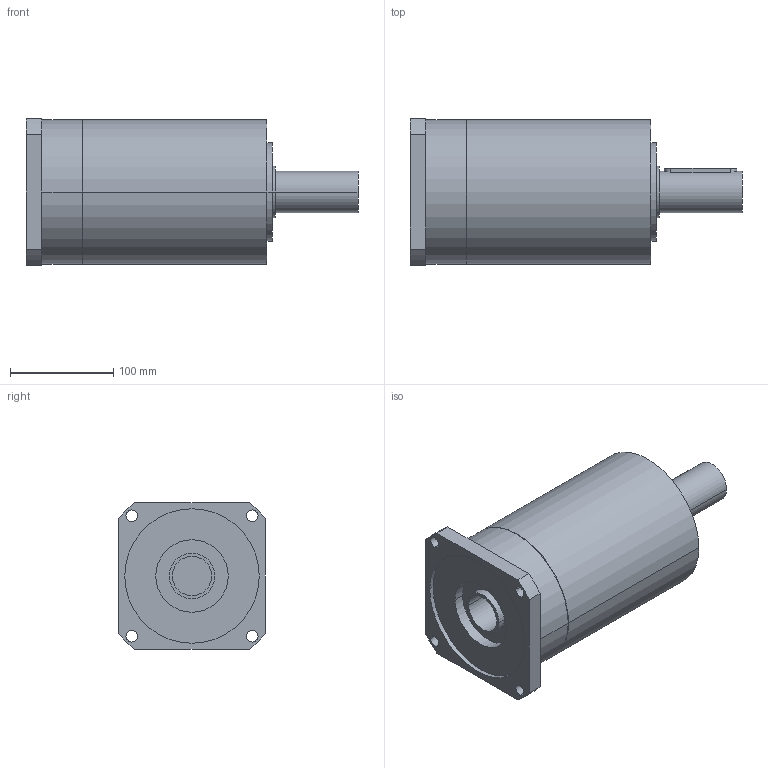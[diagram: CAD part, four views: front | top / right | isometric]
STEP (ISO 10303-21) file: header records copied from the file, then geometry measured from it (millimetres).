
FILE_DESCRIPTION(('CoCreate Modeling STEP Export'),'2;1');
FILE_NAME('GPR150_ig-9-12-16-20-28-35_40_B14_38_P05.stp','2014-08-19T17:04:31',(''),(''),'CoCreate Modeling STEP processor for AP214 (Solid Model)','CoCreate Modeling 16.00C 25-Feb-2009 (C) Parametric Technology GmbH','');
FILE_SCHEMA(('AUTOMOTIVE_DESIGN { 1 0 10303 214 1 1 1 1 }'));
Length unit declared in the file: millimetre
Products named in the file (2): GPR150_ig-9-12-16-20-28-35_40_B14_38_P05
Assembly tree (1 placements, depth 2):
  GPR150_ig-9-12-16-20-28-35_40_B14_38_P05
    GPR150_ig-9-12-16-20-28-35_40_B14_38_P05
Bounding box: 321 x 142 x 142 mm (x, y, z)
Volume: 3601071.5 mm3; surface area: 176963.9 mm2
Topology: 1 solids, 1 shells, 70 faces, 189 edges, 133 vertices
Faces by surface type: cylinder 42, plane 22, cone 6
Entity records: 1968 total; most frequent: CARTESIAN_POINT 385, ORIENTED_EDGE 374, DIRECTION 262, EDGE_CURVE 187, VERTEX_POINT 133, AXIS2_PLACEMENT_3D 98, EDGE_LOOP 92, FACE_OUTER_BOUND 70
